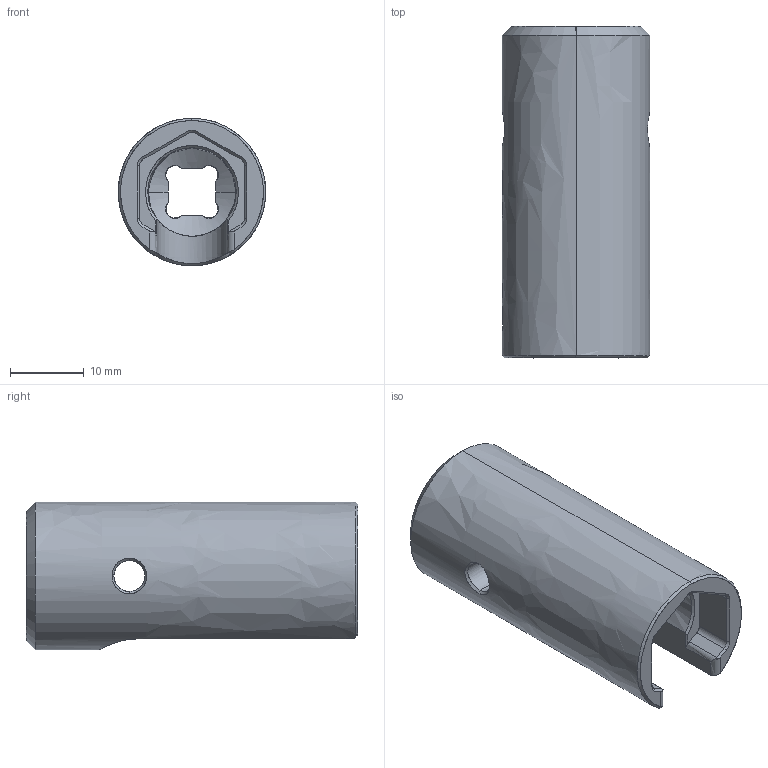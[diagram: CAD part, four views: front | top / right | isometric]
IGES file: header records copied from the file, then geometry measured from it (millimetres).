
Start section: SolidWorks IGES file using analytic representation for surfaces
Global section: file name: C:\Users\emill\Blue Robotics Dropbox\Eldin Miller-Stead\BR-Engineering\PROJECTS\WLP\MODELS\RELEASES\PUBLIC\WLP-14MM-PLUG-WRENCH-R1-PUBLIC.IGS; native system: SolidWorks 2020; preprocessor: SolidWorks 2020; author: emill; date: 210603.171402; units: millimetre
Bounding box: 20 x 45 x 20 mm (x, y, z)
Surface area: 4529.3 mm2 (no closed solid volume)
Topology: 0 solids, 0 shells, 70 faces, 897 edges, 897 vertices
Faces by surface type: revolution 38, bspline 32
